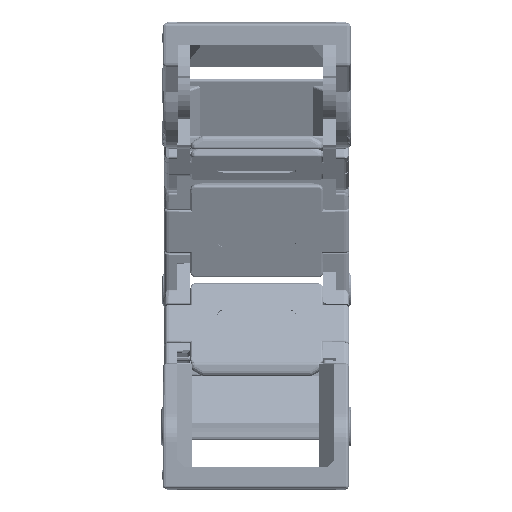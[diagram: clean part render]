
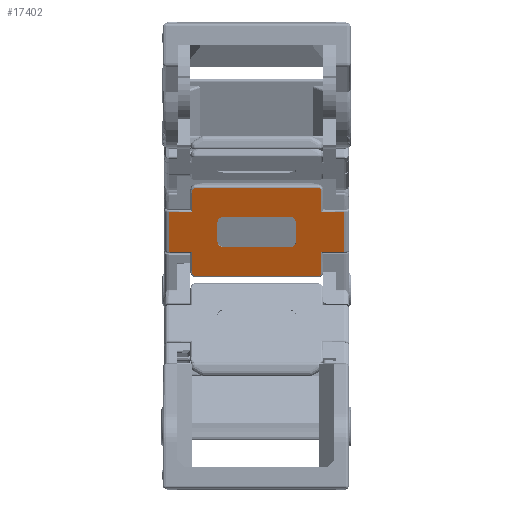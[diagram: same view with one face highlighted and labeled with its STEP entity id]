
A CAD part, front view. The second image highlights one B-rep face of the part: STEP entity #17402.
In plain terms, the highlighted planar face has unit normal (0, -0.936, -0.352).
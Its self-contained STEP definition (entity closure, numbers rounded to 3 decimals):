
#11250=FACE_BOUND('',#45248,.T.);
#11251=FACE_BOUND('',#45249,.T.);
#17402=ADVANCED_FACE('',(#11250,#11251),#27248,.T.);
#27248=PLANE('',#207458);
#45248=EDGE_LOOP('',(#79962,#79963,#79964,#79965,#79966,#79967,#79968,#79969,
#79970,#79971,#79972,#79973,#79974,#79975,#79976,#79977));
#45249=EDGE_LOOP('',(#79978,#79979,#79980,#79981,#79982,#79983,#79984,#79985));
#57000=CIRCLE('',#207450,0.45);
#57001=CIRCLE('',#207451,0.45);
#57002=CIRCLE('',#207452,0.45);
#57003=CIRCLE('',#207453,0.45);
#57004=CIRCLE('',#207454,1.);
#57005=CIRCLE('',#207455,1.);
#57006=CIRCLE('',#207456,1.);
#57007=CIRCLE('',#207457,1.);
#79962=ORIENTED_EDGE('',*,*,#148464,.T.);
#79963=ORIENTED_EDGE('',*,*,#148465,.F.);
#79964=ORIENTED_EDGE('',*,*,#148466,.T.);
#79965=ORIENTED_EDGE('',*,*,#148467,.T.);
#79966=ORIENTED_EDGE('',*,*,#148468,.T.);
#79967=ORIENTED_EDGE('',*,*,#148469,.T.);
#79968=ORIENTED_EDGE('',*,*,#148470,.T.);
#79969=ORIENTED_EDGE('',*,*,#148471,.T.);
#79970=ORIENTED_EDGE('',*,*,#148472,.T.);
#79971=ORIENTED_EDGE('',*,*,#148473,.T.);
#79972=ORIENTED_EDGE('',*,*,#148474,.T.);
#79973=ORIENTED_EDGE('',*,*,#148475,.T.);
#79974=ORIENTED_EDGE('',*,*,#148476,.F.);
#79975=ORIENTED_EDGE('',*,*,#148477,.T.);
#79976=ORIENTED_EDGE('',*,*,#148478,.T.);
#79977=ORIENTED_EDGE('',*,*,#148479,.T.);
#79978=ORIENTED_EDGE('',*,*,#148480,.T.);
#79979=ORIENTED_EDGE('',*,*,#148481,.T.);
#79980=ORIENTED_EDGE('',*,*,#148482,.T.);
#79981=ORIENTED_EDGE('',*,*,#148483,.T.);
#79982=ORIENTED_EDGE('',*,*,#148484,.T.);
#79983=ORIENTED_EDGE('',*,*,#148485,.T.);
#79984=ORIENTED_EDGE('',*,*,#148486,.T.);
#79985=ORIENTED_EDGE('',*,*,#148487,.T.);
#127347=VERTEX_POINT('',#310690);
#127348=VERTEX_POINT('',#310691);
#127349=VERTEX_POINT('',#310693);
#127350=VERTEX_POINT('',#310695);
#127351=VERTEX_POINT('',#310697);
#127352=VERTEX_POINT('',#310699);
#127353=VERTEX_POINT('',#310701);
#127354=VERTEX_POINT('',#310703);
#127355=VERTEX_POINT('',#310705);
#127356=VERTEX_POINT('',#310707);
#127357=VERTEX_POINT('',#310709);
#127358=VERTEX_POINT('',#310711);
#127359=VERTEX_POINT('',#310713);
#127360=VERTEX_POINT('',#310715);
#127361=VERTEX_POINT('',#310717);
#127362=VERTEX_POINT('',#310719);
#127363=VERTEX_POINT('',#310722);
#127364=VERTEX_POINT('',#310723);
#127365=VERTEX_POINT('',#310725);
#127366=VERTEX_POINT('',#310727);
#127367=VERTEX_POINT('',#310729);
#127368=VERTEX_POINT('',#310731);
#127369=VERTEX_POINT('',#310733);
#127370=VERTEX_POINT('',#310735);
#148464=EDGE_CURVE('',#127347,#127348,#174020,.T.);
#148465=EDGE_CURVE('',#127349,#127348,#57000,.T.);
#148466=EDGE_CURVE('',#127349,#127350,#174021,.T.);
#148467=EDGE_CURVE('',#127350,#127351,#174022,.T.);
#148468=EDGE_CURVE('',#127351,#127352,#174023,.T.);
#148469=EDGE_CURVE('',#127352,#127353,#174024,.T.);
#148470=EDGE_CURVE('',#127353,#127354,#174025,.T.);
#148471=EDGE_CURVE('',#127354,#127355,#57001,.T.);
#148472=EDGE_CURVE('',#127355,#127356,#174026,.T.);
#148473=EDGE_CURVE('',#127356,#127357,#57002,.T.);
#148474=EDGE_CURVE('',#127357,#127358,#174027,.T.);
#148475=EDGE_CURVE('',#127358,#127359,#174028,.T.);
#148476=EDGE_CURVE('',#127360,#127359,#174029,.T.);
#148477=EDGE_CURVE('',#127360,#127361,#174030,.T.);
#148478=EDGE_CURVE('',#127361,#127362,#174031,.T.);
#148479=EDGE_CURVE('',#127362,#127347,#57003,.T.);
#148480=EDGE_CURVE('',#127363,#127364,#57004,.T.);
#148481=EDGE_CURVE('',#127364,#127365,#174032,.T.);
#148482=EDGE_CURVE('',#127365,#127366,#57005,.T.);
#148483=EDGE_CURVE('',#127366,#127367,#174033,.T.);
#148484=EDGE_CURVE('',#127367,#127368,#57006,.T.);
#148485=EDGE_CURVE('',#127368,#127369,#174034,.T.);
#148486=EDGE_CURVE('',#127369,#127370,#57007,.T.);
#148487=EDGE_CURVE('',#127370,#127363,#174035,.T.);
#174020=LINE('',#310689,#189793);
#174021=LINE('',#310694,#189794);
#174022=LINE('',#310696,#189795);
#174023=LINE('',#310698,#189796);
#174024=LINE('',#310700,#189797);
#174025=LINE('',#310702,#189798);
#174026=LINE('',#310706,#189799);
#174027=LINE('',#310710,#189800);
#174028=LINE('',#310712,#189801);
#174029=LINE('',#310714,#189802);
#174030=LINE('',#310716,#189803);
#174031=LINE('',#310718,#189804);
#174032=LINE('',#310724,#189805);
#174033=LINE('',#310728,#189806);
#174034=LINE('',#310732,#189807);
#174035=LINE('',#310736,#189808);
#189793=VECTOR('',#240400,1.);
#189794=VECTOR('',#240403,1.);
#189795=VECTOR('',#240404,1.);
#189796=VECTOR('',#240405,1.);
#189797=VECTOR('',#240406,1.);
#189798=VECTOR('',#240407,1.);
#189799=VECTOR('',#240410,1.);
#189800=VECTOR('',#240413,1.);
#189801=VECTOR('',#240414,1.);
#189802=VECTOR('',#240415,1.);
#189803=VECTOR('',#240416,1.);
#189804=VECTOR('',#240417,1.);
#189805=VECTOR('',#240422,1.);
#189806=VECTOR('',#240425,1.);
#189807=VECTOR('',#240428,1.);
#189808=VECTOR('',#240431,1.);
#207450=AXIS2_PLACEMENT_3D('',#310692,#240401,#240402);
#207451=AXIS2_PLACEMENT_3D('',#310704,#240408,#240409);
#207452=AXIS2_PLACEMENT_3D('',#310708,#240411,#240412);
#207453=AXIS2_PLACEMENT_3D('',#310720,#240418,#240419);
#207454=AXIS2_PLACEMENT_3D('',#310721,#240420,#240421);
#207455=AXIS2_PLACEMENT_3D('',#310726,#240423,#240424);
#207456=AXIS2_PLACEMENT_3D('',#310730,#240426,#240427);
#207457=AXIS2_PLACEMENT_3D('',#310734,#240429,#240430);
#207458=AXIS2_PLACEMENT_3D('',#310737,#240432,#240433);
#240400=DIRECTION('',(1.,0.,0.));
#240401=DIRECTION('',(0.,0.936,0.352));
#240402=DIRECTION('',(1.,0.,0.));
#240403=DIRECTION('',(0.,-0.352,0.936));
#240404=DIRECTION('',(1.,0.,0.));
#240405=DIRECTION('',(0.,-0.352,0.936));
#240406=DIRECTION('',(-1.,0.,0.));
#240407=DIRECTION('',(0.,-0.352,0.936));
#240408=DIRECTION('',(0.,-0.936,-0.352));
#240409=DIRECTION('',(1.,0.,0.));
#240410=DIRECTION('',(-1.,0.,0.));
#240411=DIRECTION('',(0.,-0.936,-0.352));
#240412=DIRECTION('',(1.,0.,0.));
#240413=DIRECTION('',(0.,0.352,-0.936));
#240414=DIRECTION('',(-1.,0.,0.));
#240415=DIRECTION('',(0.,-0.352,0.936));
#240416=DIRECTION('',(1.,0.,0.));
#240417=DIRECTION('',(0.,0.352,-0.936));
#240418=DIRECTION('',(0.,-0.936,-0.352));
#240419=DIRECTION('',(1.,0.,0.));
#240420=DIRECTION('',(0.,0.936,0.352));
#240421=DIRECTION('',(1.,0.,0.));
#240422=DIRECTION('',(0.,0.352,-0.936));
#240423=DIRECTION('',(0.,0.936,0.352));
#240424=DIRECTION('',(1.,0.,0.));
#240425=DIRECTION('',(-1.,0.,0.));
#240426=DIRECTION('',(0.,0.936,0.352));
#240427=DIRECTION('',(1.,0.,0.));
#240428=DIRECTION('',(0.,-0.352,0.936));
#240429=DIRECTION('',(0.,0.936,0.352));
#240430=DIRECTION('',(1.,0.,0.));
#240431=DIRECTION('',(1.,0.,0.));
#240432=DIRECTION('',(0.,-0.936,-0.352));
#240433=DIRECTION('',(1.,0.,0.));
#310689=CARTESIAN_POINT('',(312.75,299.453,22.923));
#310690=CARTESIAN_POINT('',(316.75,299.453,22.923));
#310691=CARTESIAN_POINT('',(335.45,299.453,22.923));
#310692=CARTESIAN_POINT('',(335.45,299.295,23.344));
#310693=CARTESIAN_POINT('',(335.9,299.295,23.344));
#310694=CARTESIAN_POINT('',(335.9,298.096,26.526));
#310695=CARTESIAN_POINT('',(335.9,298.044,26.666));
#310696=CARTESIAN_POINT('',(312.75,298.044,26.666));
#310697=CARTESIAN_POINT('',(339.45,298.044,26.666));
#310698=CARTESIAN_POINT('',(339.45,303.548,12.052));
#310699=CARTESIAN_POINT('',(339.45,295.788,32.655));
#310700=CARTESIAN_POINT('',(312.75,295.788,32.655));
#310701=CARTESIAN_POINT('',(335.9,295.788,32.655));
#310702=CARTESIAN_POINT('',(335.9,303.548,12.052));
#310703=CARTESIAN_POINT('',(335.9,294.537,35.978));
#310704=CARTESIAN_POINT('',(335.45,294.537,35.978));
#310705=CARTESIAN_POINT('',(335.45,294.378,36.399));
#310706=CARTESIAN_POINT('',(312.75,294.378,36.399));
#310707=CARTESIAN_POINT('',(316.75,294.378,36.399));
#310708=CARTESIAN_POINT('',(316.75,294.537,35.978));
#310709=CARTESIAN_POINT('',(316.3,294.537,35.978));
#310710=CARTESIAN_POINT('',(316.3,303.548,12.052));
#310711=CARTESIAN_POINT('',(316.3,295.788,32.655));
#310712=CARTESIAN_POINT('',(312.75,295.788,32.655));
#310713=CARTESIAN_POINT('',(312.75,295.788,32.655));
#310714=CARTESIAN_POINT('',(312.75,303.548,12.052));
#310715=CARTESIAN_POINT('',(312.75,298.044,26.666));
#310716=CARTESIAN_POINT('',(312.75,298.044,26.666));
#310717=CARTESIAN_POINT('',(316.3,298.044,26.666));
#310718=CARTESIAN_POINT('',(316.3,303.548,12.052));
#310719=CARTESIAN_POINT('',(316.3,299.295,23.344));
#310720=CARTESIAN_POINT('',(316.75,299.295,23.344));
#310721=CARTESIAN_POINT('',(331.1,296.387,31.065));
#310722=CARTESIAN_POINT('',(331.1,296.035,32.));
#310723=CARTESIAN_POINT('',(332.1,296.387,31.065));
#310724=CARTESIAN_POINT('',(332.1,303.548,12.052));
#310725=CARTESIAN_POINT('',(332.1,297.444,28.257));
#310726=CARTESIAN_POINT('',(331.1,297.444,28.257));
#310727=CARTESIAN_POINT('',(331.1,297.797,27.321));
#310728=CARTESIAN_POINT('',(312.75,297.797,27.321));
#310729=CARTESIAN_POINT('',(321.1,297.797,27.321));
#310730=CARTESIAN_POINT('',(321.1,297.444,28.257));
#310731=CARTESIAN_POINT('',(320.1,297.444,28.257));
#310732=CARTESIAN_POINT('',(320.1,303.548,12.052));
#310733=CARTESIAN_POINT('',(320.1,296.387,31.065));
#310734=CARTESIAN_POINT('',(321.1,296.387,31.065));
#310735=CARTESIAN_POINT('',(321.1,296.035,32.));
#310736=CARTESIAN_POINT('',(312.75,296.035,32.));
#310737=CARTESIAN_POINT('',(312.75,303.548,12.052));
